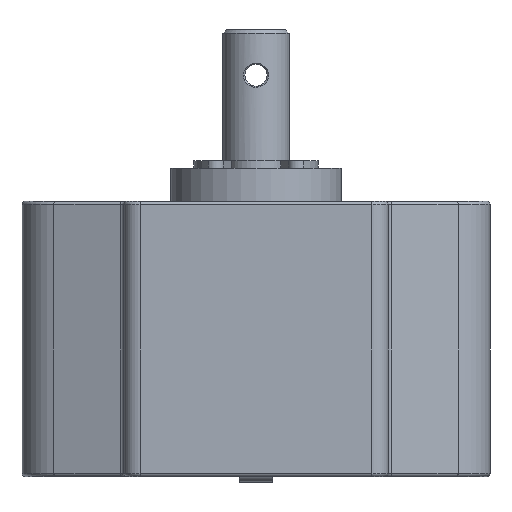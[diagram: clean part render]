
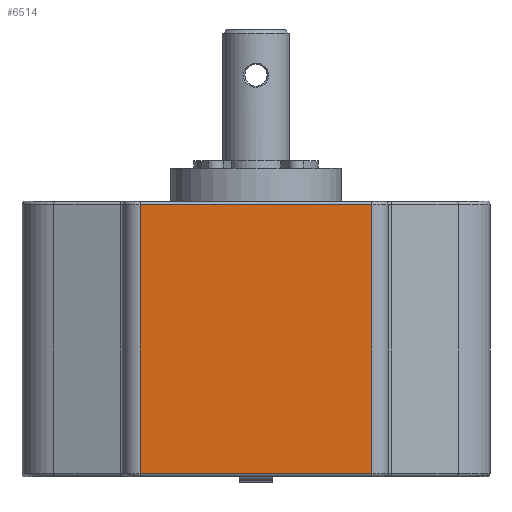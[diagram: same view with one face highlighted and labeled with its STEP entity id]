
A CAD part, front view. The second image highlights one B-rep face of the part: STEP entity #6514.
In plain terms, the highlighted planar face has unit normal (0, -1, 0).
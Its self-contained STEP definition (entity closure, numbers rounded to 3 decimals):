
#95 = LINE ( 'NONE', #18373, #17822 ) ;
#382 = LINE ( 'NONE', #7126, #13625 ) ;
#2321 = EDGE_CURVE ( 'NONE', #17825, #4144, #8403, .T. ) ;
#2926 = CARTESIAN_POINT ( 'NONE',  ( -10.5, -13., -3.3 ) ) ;
#3001 = DIRECTION ( 'NONE',  ( 0., -1., 0. ) ) ;
#3328 = PLANE ( 'NONE',  #20696 ) ;
#3436 = FACE_OUTER_BOUND ( 'NONE', #17347, .T. ) ;
#3542 = DIRECTION ( 'NONE',  ( 0., 0., -1. ) ) ;
#4144 = VERTEX_POINT ( 'NONE', #10445 ) ;
#4319 = CARTESIAN_POINT ( 'NONE',  ( 10.5, -13., -3.3 ) ) ;
#6514 = ADVANCED_FACE ( 'NONE', ( #3436 ), #3328, .T. ) ;
#6534 = DIRECTION ( 'NONE',  ( 0., 0., -1. ) ) ;
#6737 = DIRECTION ( 'NONE',  ( 1., 0., 0. ) ) ;
#7126 = CARTESIAN_POINT ( 'NONE',  ( -12., -13., -3.3 ) ) ;
#7611 = EDGE_CURVE ( 'NONE', #4144, #19893, #21273, .T. ) ;
#7990 = CARTESIAN_POINT ( 'NONE',  ( 10.5, -13., -28. ) ) ;
#8268 = VECTOR ( 'NONE', #17735, 1000. ) ;
#8300 = ORIENTED_EDGE ( 'NONE', *, *, #8328, .T. ) ;
#8328 = EDGE_CURVE ( 'NONE', #14381, #17825, #95, .T. ) ;
#8403 = LINE ( 'NONE', #21911, #9609 ) ;
#8691 = ORIENTED_EDGE ( 'NONE', *, *, #7611, .T. ) ;
#9609 = VECTOR ( 'NONE', #6737, 1000. ) ;
#9705 = EDGE_CURVE ( 'NONE', #19893, #14381, #382, .T. ) ;
#10445 = CARTESIAN_POINT ( 'NONE',  ( 10.5, -13., -27.7 ) ) ;
#11803 = DIRECTION ( 'NONE',  ( -1., 0., 0. ) ) ;
#13591 = ORIENTED_EDGE ( 'NONE', *, *, #2321, .T. ) ;
#13625 = VECTOR ( 'NONE', #11803, 1000. ) ;
#14381 = VERTEX_POINT ( 'NONE', #2926 ) ;
#15757 = CARTESIAN_POINT ( 'NONE',  ( -10.5, -13., -27.7 ) ) ;
#17347 = EDGE_LOOP ( 'NONE', ( #8691, #19199, #8300, #13591 ) ) ;
#17735 = DIRECTION ( 'NONE',  ( 0., 0., 1. ) ) ;
#17822 = VECTOR ( 'NONE', #6534, 1000. ) ;
#17825 = VERTEX_POINT ( 'NONE', #15757 ) ;
#18172 = CARTESIAN_POINT ( 'NONE',  ( -12., -13., -28. ) ) ;
#18373 = CARTESIAN_POINT ( 'NONE',  ( -10.5, -13., -28. ) ) ;
#19199 = ORIENTED_EDGE ( 'NONE', *, *, #9705, .T. ) ;
#19893 = VERTEX_POINT ( 'NONE', #4319 ) ;
#20696 = AXIS2_PLACEMENT_3D ( 'NONE', #18172, #3001, #3542 ) ;
#21273 = LINE ( 'NONE', #7990, #8268 ) ;
#21911 = CARTESIAN_POINT ( 'NONE',  ( 10.5, -13., -27.7 ) ) ;
